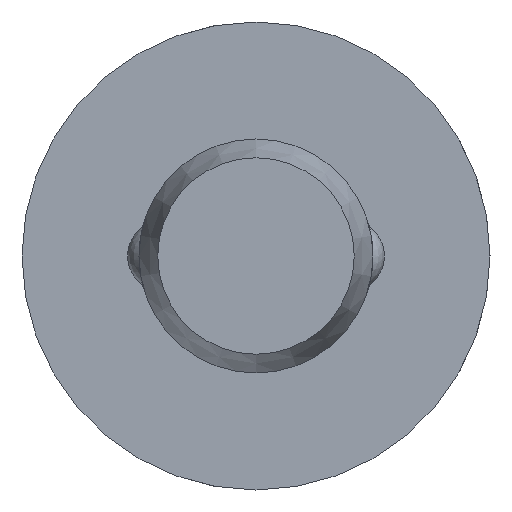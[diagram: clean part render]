
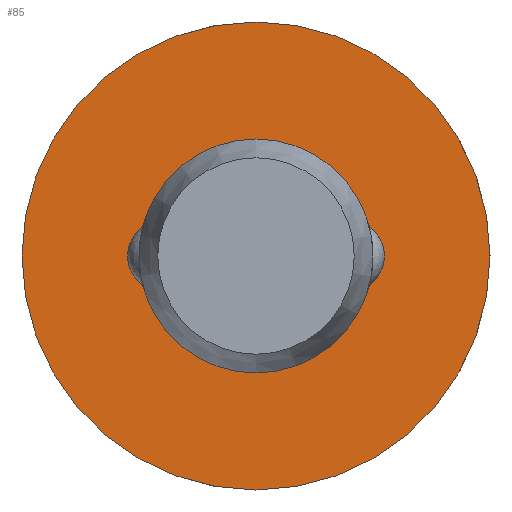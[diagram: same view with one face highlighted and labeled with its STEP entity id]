
A CAD part, left-side view. The second image highlights one B-rep face of the part: STEP entity #85.
In plain terms, the highlighted planar face has unit normal (-1, 0, 0).
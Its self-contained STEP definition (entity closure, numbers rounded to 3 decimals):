
#85 = ADVANCED_FACE( '', ( #131, #132 ), #133, .F. );
#131 = FACE_OUTER_BOUND( '', #204, .T. );
#132 = FACE_BOUND( '', #205, .T. );
#133 = PLANE( '', #206 );
#204 = EDGE_LOOP( '', ( #322 ) );
#205 = EDGE_LOOP( '', ( #323 ) );
#206 = AXIS2_PLACEMENT_3D( '', #324, #325, #326 );
#322 = ORIENTED_EDGE( '', *, *, #470, .F. );
#323 = ORIENTED_EDGE( '', *, *, #467, .T. );
#324 = CARTESIAN_POINT( '', ( 26., 2.5, 0. ) );
#325 = DIRECTION( '', ( 1., 0., 0. ) );
#326 = DIRECTION( '', ( 0., 0., -1. ) );
#467 = EDGE_CURVE( '', #541, #541, #542, .T. );
#470 = EDGE_CURVE( '', #547, #547, #548, .T. );
#541 = VERTEX_POINT( '', #749 );
#542 = CIRCLE( '', #750, 2.5 );
#547 = VERTEX_POINT( '', #801 );
#548 = CIRCLE( '', #802, 5. );
#749 = CARTESIAN_POINT( '', ( 26., 0., -2.5 ) );
#750 = AXIS2_PLACEMENT_3D( '', #881, #882, #883 );
#801 = CARTESIAN_POINT( '', ( 26., 0., -5. ) );
#802 = AXIS2_PLACEMENT_3D( '', #884, #885, #886 );
#881 = CARTESIAN_POINT( '', ( 26., 0., 0. ) );
#882 = DIRECTION( '', ( 1., 0., 0. ) );
#883 = DIRECTION( '', ( 0., 0., -1. ) );
#884 = CARTESIAN_POINT( '', ( 26., 0., 0. ) );
#885 = DIRECTION( '', ( 1., 0., 0. ) );
#886 = DIRECTION( '', ( 0., 0., -1. ) );
